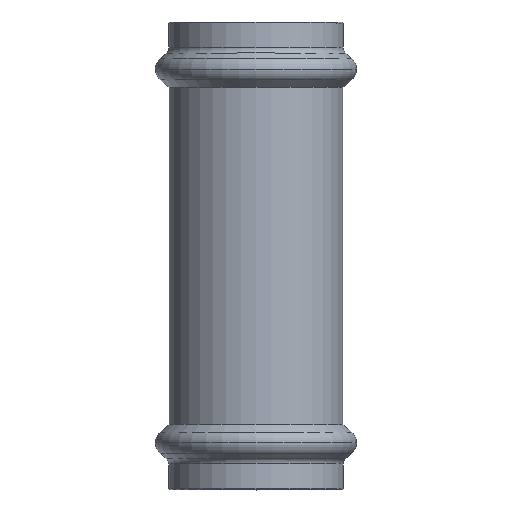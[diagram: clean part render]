
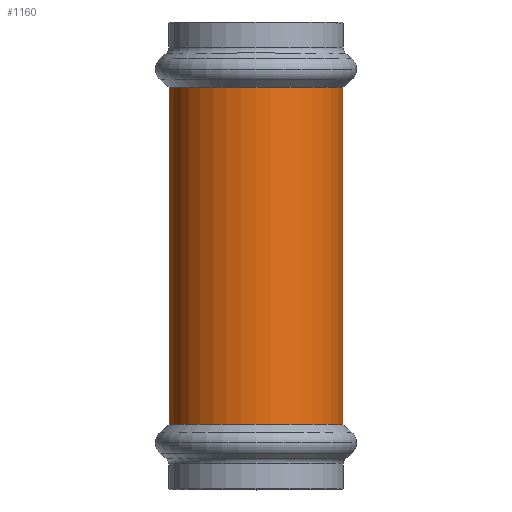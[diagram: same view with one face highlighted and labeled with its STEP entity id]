
A CAD part, top view. The second image highlights one B-rep face of the part: STEP entity #1160.
In plain terms, the highlighted cylindrical face has radius 19.15 mm (diameter 38.3 mm), a partial arc.
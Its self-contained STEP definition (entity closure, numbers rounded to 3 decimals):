
#100=CARTESIAN_POINT('',(11.856,51.414,
0.));
#110=VERTEX_POINT('',#100);
#290=CARTESIAN_POINT('',(50.156,51.414,0.
));
#300=VERTEX_POINT('',#290);
#330=CARTESIAN_POINT('',(31.006,51.414,0.));
#340=DIRECTION('',(0.,1.,0.));
#350=DIRECTION('',(1.,0.,0.));
#360=AXIS2_PLACEMENT_3D('',#330,#340,#350);
#370=CIRCLE('',#360,19.15);
#380=EDGE_CURVE('',#110,#300,#370,.T.);
#850=CARTESIAN_POINT('',(31.006,14.293,0.));
#860=DIRECTION('',(0.,1.,0.));
#870=DIRECTION('',(1.,0.,0.));
#880=AXIS2_PLACEMENT_3D('',#850,#860,#870);
#890=CYLINDRICAL_SURFACE('',#880,19.15);
#900=CARTESIAN_POINT('',(11.856,14.293,
0.));
#910=DIRECTION('',(0.,1.,0.));
#920=VECTOR('',#910,1.);
#930=LINE('',#900,#920);
#940=CARTESIAN_POINT('',(11.856,-22.828,
0.));
#950=VERTEX_POINT('',#940);
#960=EDGE_CURVE('',#950,#110,#930,.T.);
#970=ORIENTED_EDGE('',*,*,#960,.F.);
#980=ORIENTED_EDGE('',*,*,#380,.F.);
#990=CARTESIAN_POINT('',(50.156,14.293,0.));
#1000=DIRECTION('',(0.,1.,0.));
#1010=VECTOR('',#1000,1.);
#1020=LINE('',#990,#1010);
#1030=CARTESIAN_POINT('',(50.156,-22.828,0.));
#1040=VERTEX_POINT('',#1030);
#1050=EDGE_CURVE('',#1040,#300,#1020,.T.);
#1060=ORIENTED_EDGE('',*,*,#1050,.T.);
#1070=CARTESIAN_POINT('',(31.006,-22.828,0.));
#1080=DIRECTION('',(0.,-1.,0.));
#1090=DIRECTION('',(-1.,0.,0.));
#1100=AXIS2_PLACEMENT_3D('',#1070,#1080,#1090);
#1110=CIRCLE('',#1100,19.15);
#1120=EDGE_CURVE('',#1040,#950,#1110,.T.);
#1130=ORIENTED_EDGE('',*,*,#1120,.F.);
#1140=EDGE_LOOP('',(#1130,#1060,#980,#970));
#1150=FACE_OUTER_BOUND('',#1140,.T.);
#1160=ADVANCED_FACE('',(#1150),#890,.T.);
